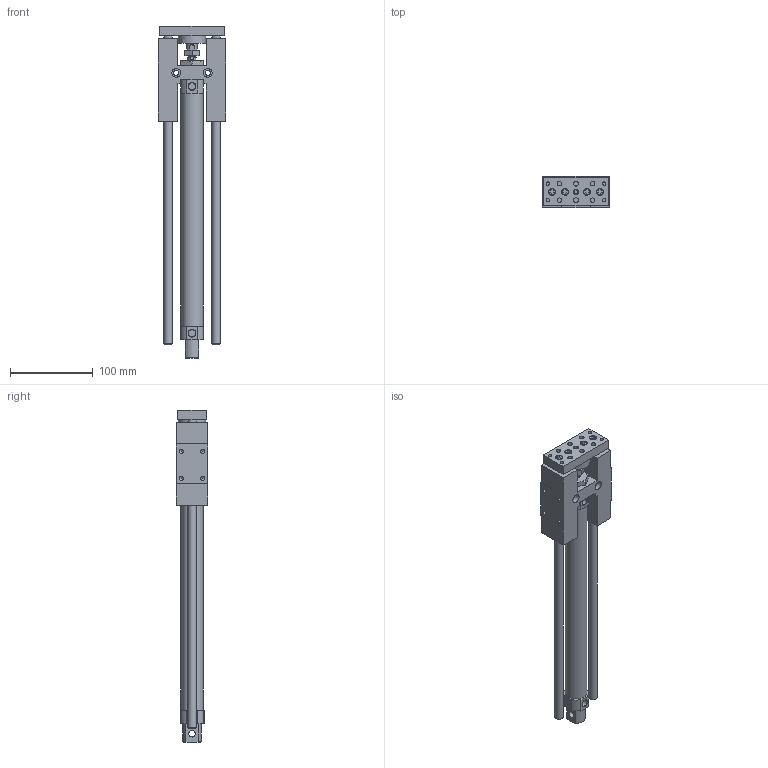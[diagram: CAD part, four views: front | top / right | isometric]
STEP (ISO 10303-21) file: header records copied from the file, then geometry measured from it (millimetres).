
FILE_DESCRIPTION((''),'2;1');
FILE_NAME('I:\3D電子目錄\氣缸\GHB(U)\GHB(U)\GHB(U)25\GHB(U)25X250.stp','2007-10-22T16:51:50',('Administrator'),(''),'Autodesk Inventor 11','Autodesk Inventor 11','');
FILE_SCHEMA(('AUTOMOTIVE_DESIGN { 1 0 10303 214 1 1 1 1 }'));
Length unit declared in the file: millimetre
Products named in the file (1): GHB(U)25
Bounding box: 82 x 38 x 401 mm (x, y, z)
Volume: 468419.4 mm3; surface area: 93199.3 mm2
Topology: 1 solids, 1 shells, 230 faces, 542 edges, 352 vertices
Faces by surface type: plane 131, cylinder 38, bspline 36, cone 25
Full cylindrical faces by diameter (mm): 4.917 x4, 5 x1, 6 x5, 7.5 x4, 8 x1, 8.5 x6, 8.6 x1, 10 x3, 13 x1, 26.6 x1, 33 x1
Entity records: 6522 total; most frequent: CARTESIAN_POINT 1583, DIRECTION 974, ORIENTED_EDGE 928, EDGE_CURVE 464, EDGE_LOOP 358, AXIS2_PLACEMENT_3D 347, VERTEX_POINT 338, VECTOR 280
